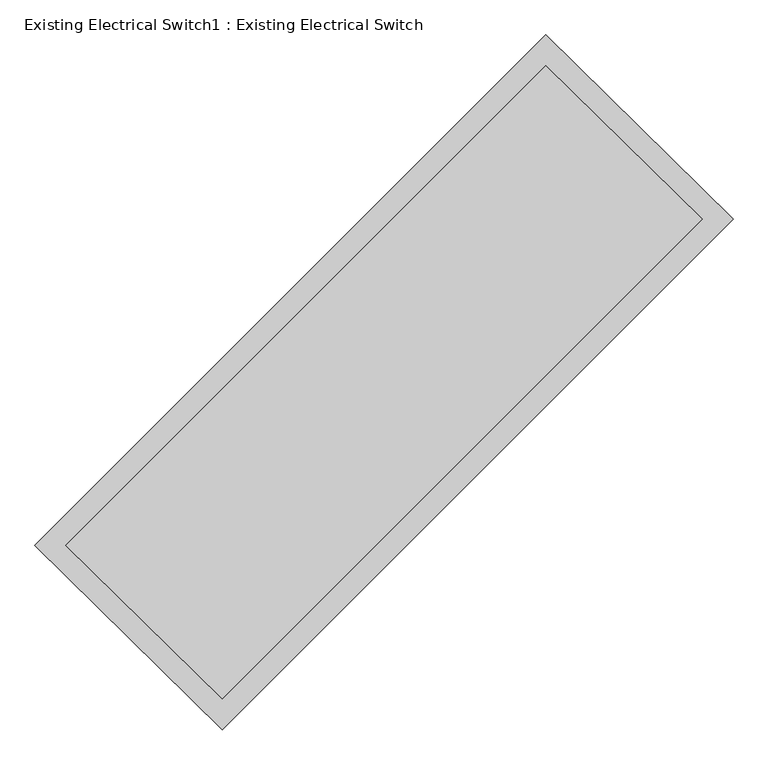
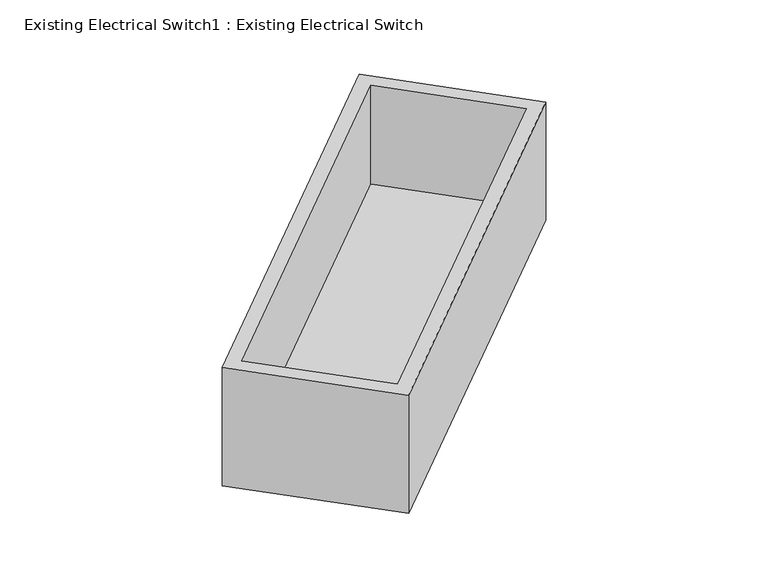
"""IFC4 building model written with IfcOpenShell, lengths in millimetres: proxy geometry, Existing Electrical Switch1 : Existing Electrical Switch."""

from ifc_helpers import new_model, si_unit, origin, place, context, project, spatial, faceted_brep, source, transform, mapped, element, save


def existing_electrical_switch1_existing_electrical_switch_2896527b(model_context):
    return source(origin(), model_context, "Body", "Brep", [
        faceted_brep([(159826.5988755, 162377.0000735, 291909.5), (164568.3193097, 167118.7205076, 291909.5), (162830.6163571, 168829.4359056, 291909.5), (158088.895923, 164087.7154715, 291909.5), (159825.4787942, 162663.248188, 291909.5), (158377.3930004, 164088.844353, 291909.5), (162831.7364385, 168543.1877911, 291909.5), (164279.8222323, 167117.5916261, 291909.5), (159826.5988755, 162377.0000735, 290080.7), (158088.895923, 164087.7154715, 290080.7), (162830.6163571, 168829.4359056, 290080.7), (164568.3193097, 167118.7205076, 290080.7), (158377.3930004, 164088.844353, 290385.5), (159825.4787942, 162663.248188, 290385.5), (164279.8222323, 167117.5916261, 290385.5), (162831.7364385, 168543.1877911, 290385.5)], [[[0, 1, 2, 3], [4, 5, 6, 7]], [[8, 9, 10, 11]], [[1, 0, 8, 11]], [[2, 1, 11, 10]], [[3, 2, 10, 9]], [[0, 3, 9, 8]], [[12, 13, 14, 15]], [[13, 12, 5, 4]], [[14, 13, 4, 7]], [[15, 14, 7, 6]], [[12, 15, 6, 5]]]),
    ])


if __name__ == "__main__":
    model = new_model("IFC4")
    model_context = context("Model", 3, world=origin())
    ifc_project = project(units=[si_unit("LENGTHUNIT", "METRE", prefix="MILLI")], contexts=[model_context])
    site = spatial("IfcSite", under=ifc_project)
    building = spatial("IfcBuilding", under=site)
    placement = place(None, origin())
    existing_electrical_switch1_existing_electrical_switch_shape = existing_electrical_switch1_existing_electrical_switch_2896527b(model_context)
    element("IfcBuildingElementProxy", 1, Name="Existing Electrical Switch1 : Existing Electrical Switch", ObjectType="Existing Electrical Switch1 : Existing Electrical Switch", at=placement, inside=building, context=model_context, shape_type="MappedRepresentation", body=[
        mapped(existing_electrical_switch1_existing_electrical_switch_shape, transform((0.0, 0.0, 0.0), x_axis=(1.0, 0.0, 0.0), y_axis=(0.0, 1.0, 0.0), z_axis=(0.0, 0.0, 1.0))),
    ])
    save(model, "model.ifc")
